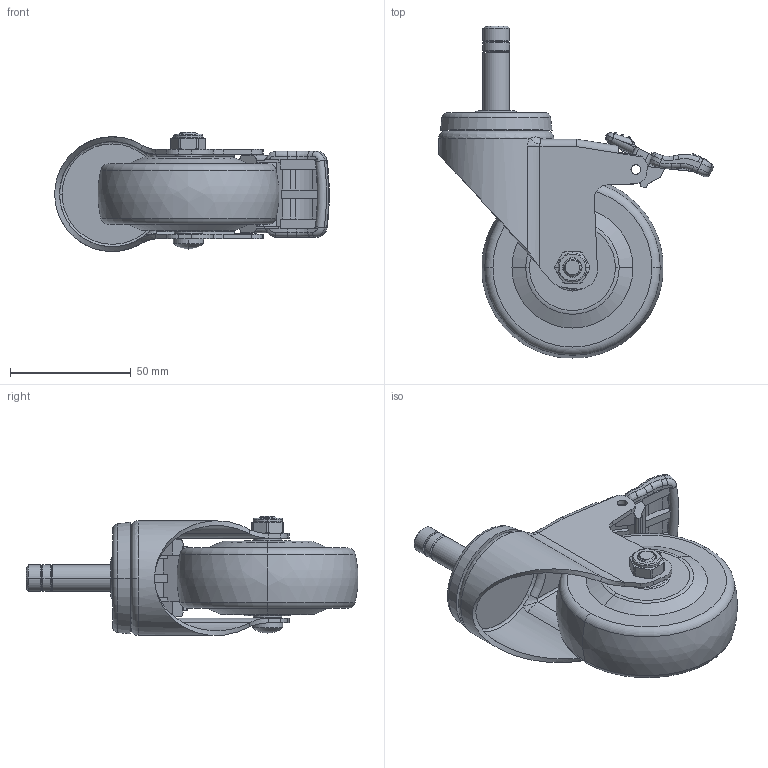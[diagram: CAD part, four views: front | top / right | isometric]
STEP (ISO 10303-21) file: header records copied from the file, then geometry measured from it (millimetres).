
FILE_DESCRIPTION((''),'2;1');
FILE_NAME('361125-3625-64_ASM','2020-01-03T',('L'),(''),'PRO/ENGINEER BY PARAMETRIC TECHNOLOGY CORPORATION, 2010280','PRO/ENGINEER BY PARAMETRIC TECHNOLOGY CORPORATION, 2010280','');
FILE_SCHEMA(('CONFIG_CONTROL_DESIGN'));
Length unit declared in the file: millimetre
Products named in the file (6): 36163H; 363-964; 350-33A; 300-34; 3601-64; 361125-3625-64_ASM
Assembly tree (5 placements, depth 2):
  361125-3625-64_ASM
    36163H
    363-964
    350-33A
    300-34
    3601-64
Bounding box: 113.44 x 137.21 x 49.22 mm (x, y, z)
Volume: 156337 mm3; surface area: 44555.2 mm2
Topology: 5 solids, 5 shells, 458 faces, 1140 edges, 708 vertices
Faces by surface type: cylinder 158, plane 146, bspline 64, torus 44, cone 32, sphere 14
Entity records: 20598 total; most frequent: CARTESIAN_POINT 10025, ORIENTED_EDGE 2276, DIRECTION 2053, EDGE_CURVE 1138, AXIS2_PLACEMENT_3D 790, VERTEX_POINT 708, EDGE_LOOP 492, VECTOR 473
